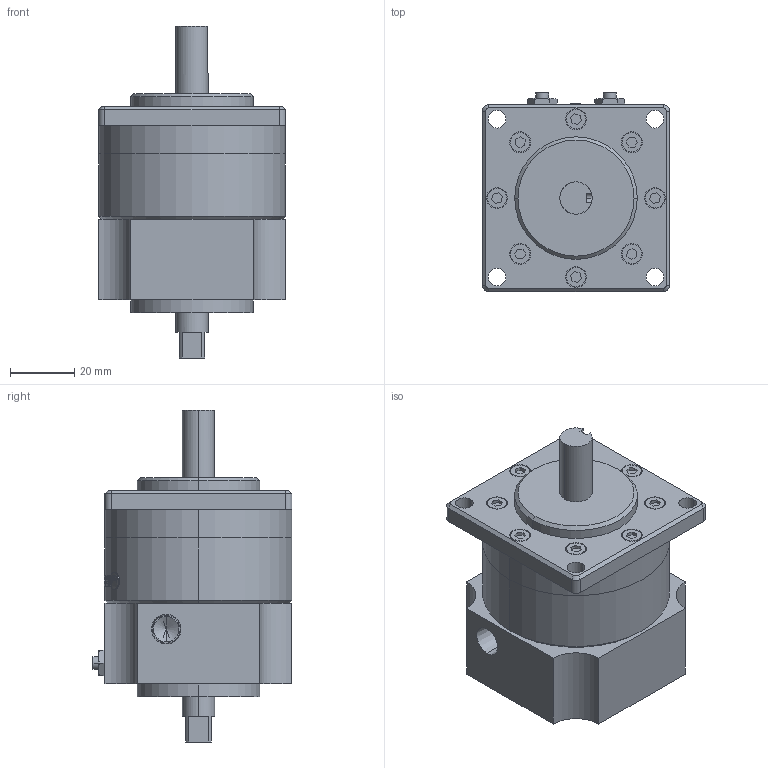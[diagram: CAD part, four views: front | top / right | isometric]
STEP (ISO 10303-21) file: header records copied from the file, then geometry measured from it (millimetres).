
FILE_DESCRIPTION (( 'STEP AP203' ), '1' );
FILE_NAME ('HRN10S-C.STEP', '2016-01-14T16:57:51', ( '' ), ( '' ), 'SwSTEP 2.0', 'SolidWorks 2014', '' );
FILE_SCHEMA (( 'CONFIG_CONTROL_DESIGN' ));
Length unit declared in the file: millimetre
Products named in the file (9): 7; 4; HRN10S-C; mark-10C; 2; 5; 1; 3; 6
Assembly tree (16 placements, depth 2):
  HRN10S-C
    1
    2  x8
    3
    5  x2
    4
    6
    7
    mark-10C
Bounding box: 58 x 62 x 103 mm (x, y, z)
Volume: 181692.2 mm3; surface area: 45488.2 mm2
Topology: 22 solids, 22 shells, 465 faces, 1094 edges, 704 vertices
Faces by surface type: plane 200, cylinder 164, cone 66, bspline 35
Entity records: 13359 total; most frequent: CARTESIAN_POINT 4434, DIRECTION 1619, ORIENTED_EDGE 1576, EDGE_CURVE 788, AXIS2_PLACEMENT_3D 645, VERTEX_POINT 516, EDGE_LOOP 414, ADVANCED_FACE 337
